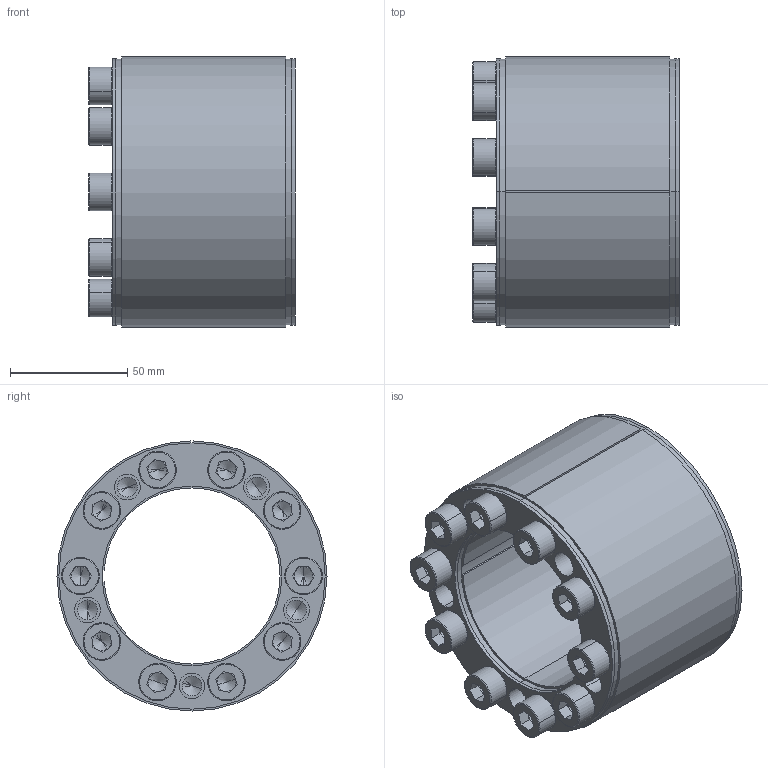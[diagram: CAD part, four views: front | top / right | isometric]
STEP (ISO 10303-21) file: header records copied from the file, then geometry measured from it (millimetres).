
FILE_DESCRIPTION (( 'STEP AP203' ), '1' );
FILE_NAME ('SAPL-D4-75-115.STEP', '2019-10-21T09:40:00', ( '' ), ( '' ), 'SwSTEP 2.0', 'SolidWorks 2015', '' );
FILE_SCHEMA (( 'CONFIG_CONTROL_DESIGN' ));
Length unit declared in the file: millimetre
Products named in the file (3): SAPL-D4-75-115; D4-75-115 B; socket head cap screw_ks_KS 1003 - M10 x 70 x 32-N
Assembly tree (11 placements, depth 2):
  SAPL-D4-75-115
    D4-75-115 B
    socket head cap screw_ks_KS 1003 - M10 x 70 x 32-N  x10
Bounding box: 88 x 115 x 115 mm (x, y, z)
Volume: 475229.3 mm3; surface area: 116269.8 mm2
Topology: 11 solids, 11 shells, 397 faces, 872 edges, 499 vertices
Faces by surface type: plane 166, cylinder 113, torus 60, cone 58
Entity records: 3959 total; most frequent: DIRECTION 674, CARTESIAN_POINT 564, ORIENTED_EDGE 532, AXIS2_PLACEMENT_3D 276, EDGE_CURVE 266, VERTEX_POINT 166, EDGE_LOOP 154, CIRCLE 144
